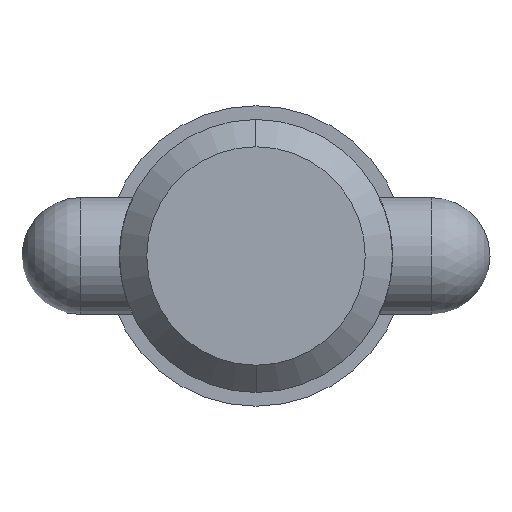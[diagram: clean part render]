
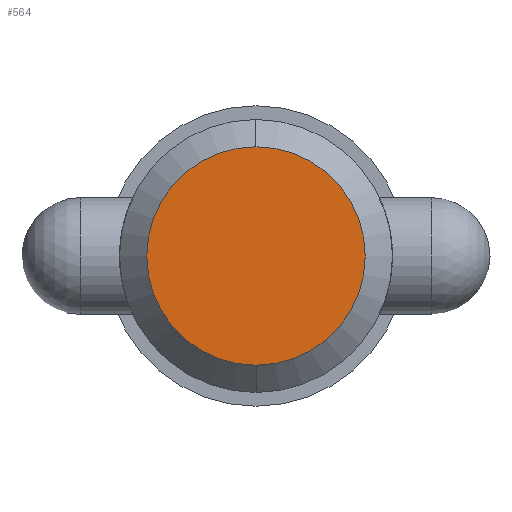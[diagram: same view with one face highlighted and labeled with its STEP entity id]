
A CAD part, left-side view. The second image highlights one B-rep face of the part: STEP entity #564.
In plain terms, the highlighted planar face has unit normal (-1, 0, 0).
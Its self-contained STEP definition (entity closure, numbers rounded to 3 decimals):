
#2 = EDGE_CURVE ( 'NONE', #941, #341, #581, .T. ) ;
#103 = AXIS2_PLACEMENT_3D ( 'NONE', #865, #291, #886 ) ;
#140 = AXIS2_PLACEMENT_3D ( 'NONE', #363, #668, #834 ) ;
#146 = FACE_OUTER_BOUND ( 'NONE', #204, .T. ) ;
#204 = EDGE_LOOP ( 'NONE', ( #465, #505 ) ) ;
#220 = EDGE_CURVE ( 'NONE', #341, #941, #349, .T. ) ;
#291 = DIRECTION ( 'NONE',  ( -1., 0., 0. ) ) ;
#308 = CARTESIAN_POINT ( 'NONE',  ( 0., 0., 8.892 ) ) ;
#333 = AXIS2_PLACEMENT_3D ( 'NONE', #508, #760, #667 ) ;
#341 = VERTEX_POINT ( 'NONE', #1031 ) ;
#349 = CIRCLE ( 'NONE', #333, 8.892 ) ;
#363 = CARTESIAN_POINT ( 'NONE',  ( 0., 0., 0. ) ) ;
#465 = ORIENTED_EDGE ( 'NONE', *, *, #220, .F. ) ;
#505 = ORIENTED_EDGE ( 'NONE', *, *, #2, .F. ) ;
#508 = CARTESIAN_POINT ( 'NONE',  ( 0., 0., 0. ) ) ;
#528 = PLANE ( 'NONE',  #103 ) ;
#564 = ADVANCED_FACE ( 'NONE', ( #146 ), #528, .T. ) ;
#581 = CIRCLE ( 'NONE', #140, 8.892 ) ;
#667 = DIRECTION ( 'NONE',  ( 0., 0., -1. ) ) ;
#668 = DIRECTION ( 'NONE',  ( 1., 0., 0. ) ) ;
#760 = DIRECTION ( 'NONE',  ( 1., 0., 0. ) ) ;
#834 = DIRECTION ( 'NONE',  ( 0., 0., -1. ) ) ;
#865 = CARTESIAN_POINT ( 'NONE',  ( 0., 0., 0. ) ) ;
#886 = DIRECTION ( 'NONE',  ( 0., 0., 1. ) ) ;
#941 = VERTEX_POINT ( 'NONE', #308 ) ;
#1031 = CARTESIAN_POINT ( 'NONE',  ( 0., 0., -8.892 ) ) ;
